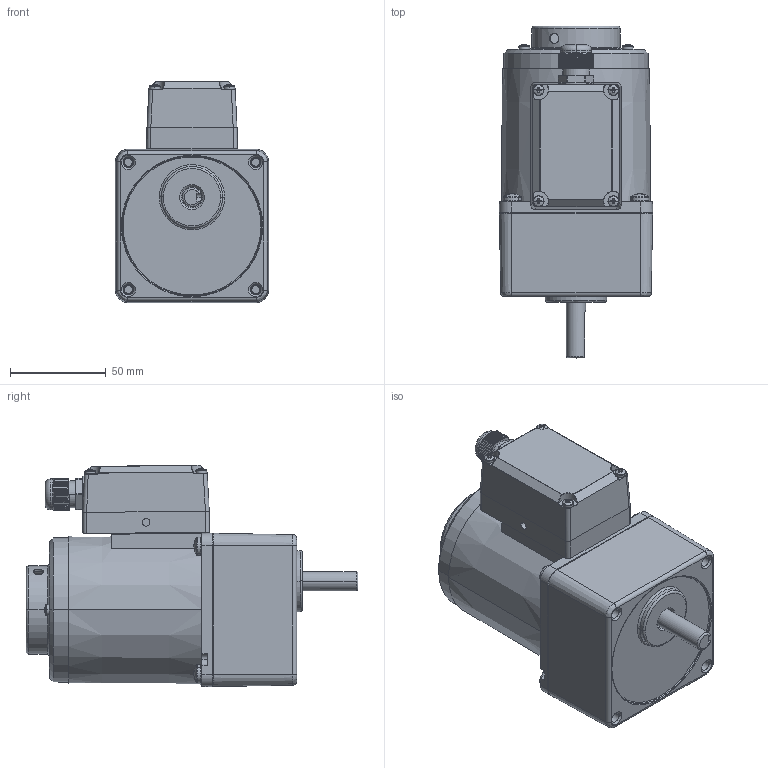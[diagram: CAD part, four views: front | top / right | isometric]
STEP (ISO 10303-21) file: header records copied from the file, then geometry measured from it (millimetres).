
FILE_DESCRIPTION (( 'STEP AP203' ), '1' );
FILE_NAME ('4IK25RGN-CT(4GN3K-200K).STEP', '2020-04-08T01:56:39', ( 'Windows 蚚誧' ), ( '' ), 'SwSTEP 2.0', 'SolidWorks 2019', '' );
FILE_SCHEMA (( 'CONFIG_CONTROL_DESIGN' ));
Length unit declared in the file: millimetre
Products named in the file (16): PRT0101^3ik15ra-c_asm(2)_70TSZ.STEP; 70TSJXHG.STEP.STEP; M14SJQ^70TSJXHG(2)_70TSJXHG.STEP.STEP; 80TSJXHJK.STEP; M3^70TSJXHG(2)_70TSJXHG.STEP.STEP; 70TSZ.STEP; 3ik15ra-c_asm(2)^70TSZ.STEP; PRT0099^3ik15ra-c_asm(2)_70TSZ.STEP; 4GN3K-200K; 3IK15RA-C_AF0^3ik15ra-c_asm(2)_70TSZ.STEP; 4IK25RGN-CT.STEP; 4IK25RGN-CT; 4IK25RGN-CT(4GN3K-200K); 70TSJXHG(2)^70TSJXHG.STEP.STEP; M5; TSJXH^70TSJXHG(2)_70TSJXHG.STEP.STEP
Assembly tree (21 placements, depth 6):
  4IK25RGN-CT(4GN3K-200K)
    4IK25RGN-CT
      4IK25RGN-CT.STEP
        70TSJXHG.STEP.STEP
          70TSJXHG(2)^70TSJXHG.STEP.STEP
            TSJXH^70TSJXHG(2)_70TSJXHG.STEP.STEP
            M14SJQ^70TSJXHG(2)_70TSJXHG.STEP.STEP
            M3^70TSJXHG(2)_70TSJXHG.STEP.STEP  x4
        70TSZ.STEP
          3ik15ra-c_asm(2)^70TSZ.STEP
            3IK15RA-C_AF0^3ik15ra-c_asm(2)_70TSZ.STEP
            PRT0099^3ik15ra-c_asm(2)_70TSZ.STEP
            PRT0101^3ik15ra-c_asm(2)_70TSZ.STEP
        80TSJXHJK.STEP
    4GN3K-200K
    M5  x4
Bounding box: 80 x 173.25 x 115.44 mm (x, y, z)
Volume: 503440.6 mm3; surface area: 122186.6 mm2
Topology: 15 solids, 16 shells, 1976 faces, 5149 edges, 3206 vertices
Faces by surface type: cone 883, cylinder 647, plane 333, torus 63, sphere 29, bspline 21
Entity records: 39820 total; most frequent: CARTESIAN_POINT 11450, DIRECTION 5944, ORIENTED_EDGE 5476, EDGE_CURVE 2738, AXIS2_PLACEMENT_3D 2451, VERTEX_POINT 1738, CIRCLE 1376, EDGE_LOOP 1136
